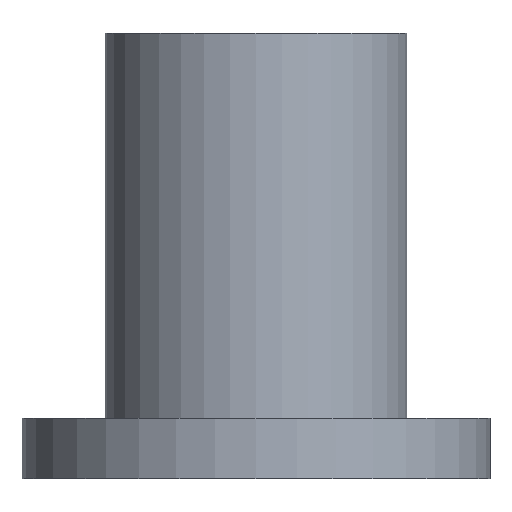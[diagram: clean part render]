
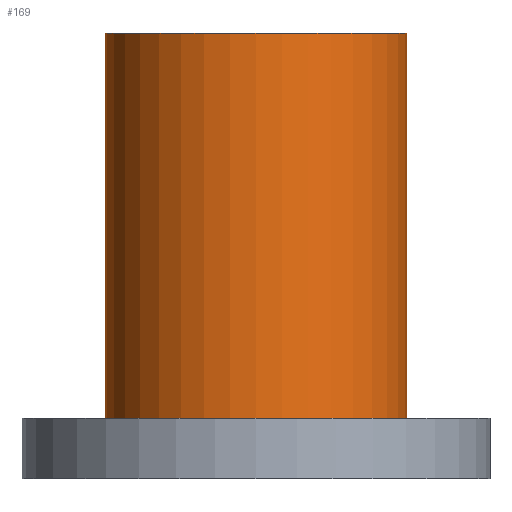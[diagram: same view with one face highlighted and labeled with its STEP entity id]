
A CAD part, front view. The second image highlights one B-rep face of the part: STEP entity #169.
In plain terms, the highlighted cylindrical face has radius 20 mm (diameter 40 mm), a partial arc.
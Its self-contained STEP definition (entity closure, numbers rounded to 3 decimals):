
#128=CARTESIAN_POINT('',(0.0,-0.1,0.0));
#129=DIRECTION('',(0.0,0.0,1.0));
#130=DIRECTION('',(-1.0,0.0,0.0));
#131=AXIS2_PLACEMENT_3D('',#128,#129,#130);
#132=CYLINDRICAL_SURFACE('',#131,20.0);
#133=CARTESIAN_POINT('',(-20.0,-0.1,8.0));
#134=VERTEX_POINT('',#133);
#135=CARTESIAN_POINT('',(-20.0,-0.1,59.0));
#136=VERTEX_POINT('',#135);
#137=CARTESIAN_POINT('',(-20.0,-0.1,8.0));
#138=DIRECTION('',(0.0,0.0,1.0));
#139=VECTOR('',#138,51.0);
#140=LINE('',#137,#139);
#141=EDGE_CURVE('',#134,#136,#140,.T.);
#142=ORIENTED_EDGE('',*,*,#141,.F.);
#143=CARTESIAN_POINT('',(20.0,-0.1,8.0));
#144=VERTEX_POINT('',#143);
#145=CARTESIAN_POINT('',(0.0,-0.1,8.0));
#146=DIRECTION('',(0.0,0.0,-1.0));
#147=DIRECTION('',(-1.0,0.0,0.0));
#148=AXIS2_PLACEMENT_3D('',#145,#146,#147);
#149=CIRCLE('',#148,20.0);
#150=EDGE_CURVE('',#144,#134,#149,.T.);
#151=ORIENTED_EDGE('',*,*,#150,.F.);
#152=CARTESIAN_POINT('',(20.0,-0.1,59.0));
#153=VERTEX_POINT('',#152);
#154=CARTESIAN_POINT('',(20.0,-0.1,59.0));
#155=DIRECTION('',(0.0,0.0,-1.0));
#156=VECTOR('',#155,51.0);
#157=LINE('',#154,#156);
#158=EDGE_CURVE('',#153,#144,#157,.T.);
#159=ORIENTED_EDGE('',*,*,#158,.F.);
#160=CARTESIAN_POINT('',(0.0,-0.1,59.0));
#161=DIRECTION('',(0.0,0.0,-1.0));
#162=DIRECTION('',(-1.0,0.0,0.0));
#163=AXIS2_PLACEMENT_3D('',#160,#161,#162);
#164=CIRCLE('',#163,20.0);
#165=EDGE_CURVE('',#153,#136,#164,.T.);
#166=ORIENTED_EDGE('',*,*,#165,.T.);
#167=EDGE_LOOP('',(#142,#151,#159,#166));
#168=FACE_OUTER_BOUND('',#167,.T.);
#169=ADVANCED_FACE('',(#168),#132,.T.);
